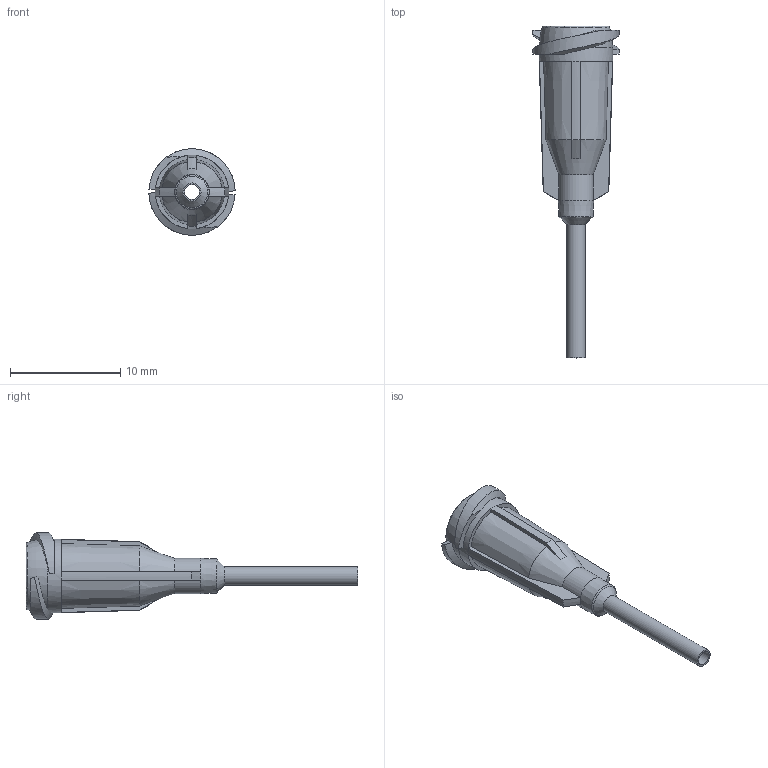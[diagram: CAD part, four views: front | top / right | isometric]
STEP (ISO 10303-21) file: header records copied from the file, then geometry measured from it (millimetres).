
FILE_DESCRIPTION (( 'STEP AP214' ), '1' );
FILE_NAME ('DAV TE 16 05.STEP', '2023-09-29T06:08:35', ( '' ), ( '' ), 'SwSTEP 2.0', 'SolidWorks 2022', '' );
FILE_SCHEMA (( 'AUTOMOTIVE_DESIGN' ));
Length unit declared in the file: millimetre
Products named in the file (1): DAV TE 16 05
Bounding box: 7.82 x 30.07 x 7.82 mm (x, y, z)
Volume: 263.2 mm3; surface area: 663.6 mm2
Topology: 1 solids, 1 shells, 63 faces, 161 edges, 101 vertices
Faces by surface type: plane 23, cone 16, bspline 10, cylinder 7, torus 7
Full cylindrical faces by diameter (mm): 1.35 x1, 1.65 x1, 2.87 x1, 6.655 x1
Entity records: 2066 total; most frequent: CARTESIAN_POINT 796, ORIENTED_EDGE 262, DIRECTION 228, EDGE_CURVE 131, AXIS2_PLACEMENT_3D 99, VERTEX_POINT 89, EDGE_LOOP 80, FACE_OUTER_BOUND 71
